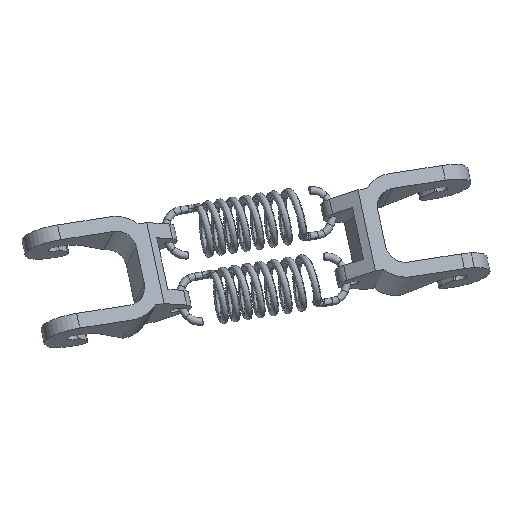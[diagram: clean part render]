
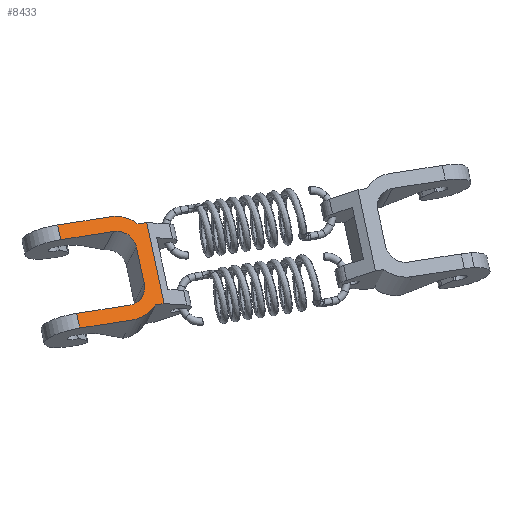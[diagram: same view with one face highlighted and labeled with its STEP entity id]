
A CAD part, isometric view. The second image highlights one B-rep face of the part: STEP entity #8433.
In plain terms, the highlighted planar face has unit normal (-0.31, -0.536, 0.785).
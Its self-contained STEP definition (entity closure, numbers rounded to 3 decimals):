
#48 = VERTEX_POINT ( 'NONE', #7989 ) ;
#81 = VECTOR ( 'NONE', #10544, 1000. ) ;
#419 = DIRECTION ( 'NONE',  ( -0.866, 0.5, 0. ) ) ;
#526 = AXIS2_PLACEMENT_3D ( 'NONE', #3355, #10405, #2181 ) ;
#571 = ORIENTED_EDGE ( 'NONE', *, *, #7356, .F. ) ;
#599 = EDGE_CURVE ( 'NONE', #948, #9986, #632, .T. ) ;
#632 = CIRCLE ( 'NONE', #10250, 9. ) ;
#661 = PLANE ( 'NONE',  #526 ) ;
#862 = CARTESIAN_POINT ( 'NONE',  ( -307.425, -432.475, -285.759 ) ) ;
#948 = VERTEX_POINT ( 'NONE', #3198 ) ;
#979 = DIRECTION ( 'NONE',  ( 0.31, 0.536, -0.785 ) ) ;
#1032 = CARTESIAN_POINT ( 'NONE',  ( -301.184, -457.105, -300.127 ) ) ;
#1088 = EDGE_CURVE ( 'NONE', #11249, #8134, #9716, .T. ) ;
#1090 = VECTOR ( 'NONE', #6039, 1000. ) ;
#1168 = VERTEX_POINT ( 'NONE', #10950 ) ;
#1178 = LINE ( 'NONE', #10349, #11098 ) ;
#1235 = EDGE_CURVE ( 'NONE', #2844, #2283, #2848, .T. ) ;
#1460 = EDGE_CURVE ( 'NONE', #8057, #10161, #2902, .T. ) ;
#1768 = ORIENTED_EDGE ( 'NONE', *, *, #9059, .F. ) ;
#1771 = CIRCLE ( 'NONE', #8372, 5. ) ;
#1877 = ORIENTED_EDGE ( 'NONE', *, *, #6440, .F. ) ;
#2041 = EDGE_CURVE ( 'NONE', #6491, #8057, #9082, .T. ) ;
#2079 = VECTOR ( 'NONE', #3746, 1000. ) ;
#2093 = CARTESIAN_POINT ( 'NONE',  ( -293.73, -436.756, -283.281 ) ) ;
#2181 = DIRECTION ( 'NONE',  ( 0., 0.826, 0.564 ) ) ;
#2247 = EDGE_LOOP ( 'NONE', ( #1877, #9838, #5447, #9297, #5891, #6661, #5423, #3001, #9019, #1768, #6115, #7778, #9219, #4368, #3183, #571 ) ) ;
#2283 = VERTEX_POINT ( 'NONE', #4863 ) ;
#2446 = CARTESIAN_POINT ( 'NONE',  ( -289.098, -442.149, -285.139 ) ) ;
#2524 = EDGE_CURVE ( 'NONE', #2749, #7044, #8840, .T. ) ;
#2546 = EDGE_CURVE ( 'NONE', #7044, #6840, #6458, .T. ) ;
#2583 = CARTESIAN_POINT ( 'NONE',  ( -295.749, -458.252, -298.767 ) ) ;
#2749 = VERTEX_POINT ( 'NONE', #8735 ) ;
#2844 = VERTEX_POINT ( 'NONE', #2583 ) ;
#2848 = LINE ( 'NONE', #9064, #4588 ) ;
#2902 = CIRCLE ( 'NONE', #8756, 5. ) ;
#2977 = DIRECTION ( 'NONE',  ( 0., -0.826, -0.564 ) ) ;
#3001 = ORIENTED_EDGE ( 'NONE', *, *, #1460, .F. ) ;
#3183 = ORIENTED_EDGE ( 'NONE', *, *, #1235, .T. ) ;
#3198 = CARTESIAN_POINT ( 'NONE',  ( -297.734, -457.107, -298.767 ) ) ;
#3355 = CARTESIAN_POINT ( 'NONE',  ( -301.188, -449.673, -295.05 ) ) ;
#3692 = CARTESIAN_POINT ( 'NONE',  ( -315.275, -446.073, -298.147 ) ) ;
#3746 = DIRECTION ( 'NONE',  ( 0.393, 0.68, 0.619 ) ) ;
#3755 = DIRECTION ( 'NONE',  ( 0., -0.826, -0.564 ) ) ;
#3858 = VECTOR ( 'NONE', #7781, 1000. ) ;
#3892 = DIRECTION ( 'NONE',  ( 0., -0.826, -0.564 ) ) ;
#3947 = CARTESIAN_POINT ( 'NONE',  ( -301.188, -449.673, -295.05 ) ) ;
#4002 = LINE ( 'NONE', #6723, #6737 ) ;
#4047 = LINE ( 'NONE', #11508, #3858 ) ;
#4103 = EDGE_CURVE ( 'NONE', #10161, #11249, #1771, .T. ) ;
#4143 = CARTESIAN_POINT ( 'NONE',  ( -301.186, -453.802, -297.871 ) ) ;
#4368 = ORIENTED_EDGE ( 'NONE', *, *, #5058, .F. ) ;
#4588 = VECTOR ( 'NONE', #10065, 1000. ) ;
#4661 = AXIS2_PLACEMENT_3D ( 'NONE', #4723, #10890, #6331 ) ;
#4723 = CARTESIAN_POINT ( 'NONE',  ( -297.263, -442.875, -288.856 ) ) ;
#4860 = CARTESIAN_POINT ( 'NONE',  ( -301.188, -449.673, -295.05 ) ) ;
#4863 = CARTESIAN_POINT ( 'NONE',  ( -287.114, -443.295, -285.139 ) ) ;
#4893 = CARTESIAN_POINT ( 'NONE',  ( -304.721, -455.792, -300.625 ) ) ;
#5058 = EDGE_CURVE ( 'NONE', #2844, #948, #4047, .T. ) ;
#5122 = FACE_OUTER_BOUND ( 'NONE', #2247, .T. ) ;
#5133 = CARTESIAN_POINT ( 'NONE',  ( -296.858, -452.173, -295.05 ) ) ;
#5281 = VECTOR ( 'NONE', #5971, 1000. ) ;
#5401 = EDGE_CURVE ( 'NONE', #9986, #5801, #10111, .T. ) ;
#5423 = ORIENTED_EDGE ( 'NONE', *, *, #4103, .F. ) ;
#5447 = ORIENTED_EDGE ( 'NONE', *, *, #2546, .F. ) ;
#5801 = VERTEX_POINT ( 'NONE', #9905 ) ;
#5829 = DIRECTION ( 'NONE',  ( 0.866, -0.5, 0. ) ) ;
#5891 = ORIENTED_EDGE ( 'NONE', *, *, #8820, .F. ) ;
#5971 = DIRECTION ( 'NONE',  ( -0.866, 0.5, 0. ) ) ;
#6039 = DIRECTION ( 'NONE',  ( 0.866, -0.5, 0. ) ) ;
#6115 = ORIENTED_EDGE ( 'NONE', *, *, #8594, .F. ) ;
#6331 = DIRECTION ( 'NONE',  ( 0., -0.826, -0.564 ) ) ;
#6440 = EDGE_CURVE ( 'NONE', #7630, #48, #11459, .T. ) ;
#6458 = LINE ( 'NONE', #862, #2079 ) ;
#6491 = VERTEX_POINT ( 'NONE', #10064 ) ;
#6661 = ORIENTED_EDGE ( 'NONE', *, *, #1088, .F. ) ;
#6723 = CARTESIAN_POINT ( 'NONE',  ( -305.855, -429.756, -283.281 ) ) ;
#6737 = VECTOR ( 'NONE', #5829, 1000. ) ;
#6753 = LINE ( 'NONE', #2446, #1090 ) ;
#6840 = VERTEX_POINT ( 'NONE', #11399 ) ;
#6870 = CARTESIAN_POINT ( 'NONE',  ( -297.263, -442.875, -288.856 ) ) ;
#6915 = CARTESIAN_POINT ( 'NONE',  ( -296.858, -452.173, -295.05 ) ) ;
#7044 = VERTEX_POINT ( 'NONE', #10318 ) ;
#7290 = DIRECTION ( 'NONE',  ( 0., -0.826, -0.564 ) ) ;
#7294 = DIRECTION ( 'NONE',  ( 0.866, -0.5, 0. ) ) ;
#7356 = EDGE_CURVE ( 'NONE', #48, #2283, #6753, .T. ) ;
#7453 = AXIS2_PLACEMENT_3D ( 'NONE', #11083, #10256, #2977 ) ;
#7630 = VERTEX_POINT ( 'NONE', #2093 ) ;
#7778 = ORIENTED_EDGE ( 'NONE', *, *, #5401, .F. ) ;
#7781 = DIRECTION ( 'NONE',  ( -0.866, 0.5, 0. ) ) ;
#7886 = CIRCLE ( 'NONE', #8076, 5. ) ;
#7989 = CARTESIAN_POINT ( 'NONE',  ( -289.098, -442.149, -285.139 ) ) ;
#8046 = CARTESIAN_POINT ( 'NONE',  ( -292.933, -445.375, -288.856 ) ) ;
#8057 = VERTEX_POINT ( 'NONE', #10886 ) ;
#8076 = AXIS2_PLACEMENT_3D ( 'NONE', #6870, #10258, #9369 ) ;
#8134 = VERTEX_POINT ( 'NONE', #8046 ) ;
#8259 = VECTOR ( 'NONE', #419, 1000. ) ;
#8357 = CARTESIAN_POINT ( 'NONE',  ( -301.188, -449.673, -295.05 ) ) ;
#8372 = AXIS2_PLACEMENT_3D ( 'NONE', #4860, #9364, #3755 ) ;
#8433 = ADVANCED_FACE ( 'NONE', ( #5122 ), #661, .F. ) ;
#8452 = DIRECTION ( 'NONE',  ( -0.31, -0.536, 0.785 ) ) ;
#8570 = VECTOR ( 'NONE', #7294, 1000. ) ;
#8594 = EDGE_CURVE ( 'NONE', #5801, #1168, #11395, .T. ) ;
#8735 = CARTESIAN_POINT ( 'NONE',  ( -295.3, -439.475, -285.759 ) ) ;
#8756 = AXIS2_PLACEMENT_3D ( 'NONE', #3947, #8452, #3892 ) ;
#8820 = EDGE_CURVE ( 'NONE', #8134, #2749, #7886, .T. ) ;
#8840 = LINE ( 'NONE', #9672, #5281 ) ;
#9019 = ORIENTED_EDGE ( 'NONE', *, *, #2041, .F. ) ;
#9059 = EDGE_CURVE ( 'NONE', #1168, #6491, #1178, .T. ) ;
#9064 = CARTESIAN_POINT ( 'NONE',  ( -295.749, -458.252, -298.767 ) ) ;
#9082 = LINE ( 'NONE', #3692, #8570 ) ;
#9219 = ORIENTED_EDGE ( 'NONE', *, *, #599, .F. ) ;
#9246 = EDGE_CURVE ( 'NONE', #6840, #7630, #4002, .T. ) ;
#9297 = ORIENTED_EDGE ( 'NONE', *, *, #2524, .F. ) ;
#9364 = DIRECTION ( 'NONE',  ( -0.31, -0.536, 0.785 ) ) ;
#9369 = DIRECTION ( 'NONE',  ( 0., -0.826, -0.564 ) ) ;
#9672 = CARTESIAN_POINT ( 'NONE',  ( -295.3, -439.475, -285.759 ) ) ;
#9716 = LINE ( 'NONE', #6915, #81 ) ;
#9838 = ORIENTED_EDGE ( 'NONE', *, *, #9246, .F. ) ;
#9905 = CARTESIAN_POINT ( 'NONE',  ( -304.721, -455.792, -300.625 ) ) ;
#9986 = VERTEX_POINT ( 'NONE', #1032 ) ;
#10064 = CARTESIAN_POINT ( 'NONE',  ( -315.275, -446.073, -298.147 ) ) ;
#10065 = DIRECTION ( 'NONE',  ( 0.393, 0.68, 0.619 ) ) ;
#10111 = CIRCLE ( 'NONE', #7453, 9. ) ;
#10161 = VERTEX_POINT ( 'NONE', #4143 ) ;
#10250 = AXIS2_PLACEMENT_3D ( 'NONE', #8357, #979, #7290 ) ;
#10256 = DIRECTION ( 'NONE',  ( 0.31, 0.536, -0.785 ) ) ;
#10258 = DIRECTION ( 'NONE',  ( -0.31, -0.536, 0.785 ) ) ;
#10290 = DIRECTION ( 'NONE',  ( 0.393, 0.68, 0.619 ) ) ;
#10318 = CARTESIAN_POINT ( 'NONE',  ( -307.425, -432.475, -285.759 ) ) ;
#10349 = CARTESIAN_POINT ( 'NONE',  ( -316.845, -448.792, -300.625 ) ) ;
#10405 = DIRECTION ( 'NONE',  ( 0.31, 0.536, -0.785 ) ) ;
#10544 = DIRECTION ( 'NONE',  ( 0.393, 0.68, 0.619 ) ) ;
#10886 = CARTESIAN_POINT ( 'NONE',  ( -303.151, -453.073, -298.147 ) ) ;
#10890 = DIRECTION ( 'NONE',  ( 0.31, 0.536, -0.785 ) ) ;
#10950 = CARTESIAN_POINT ( 'NONE',  ( -316.845, -448.792, -300.625 ) ) ;
#11083 = CARTESIAN_POINT ( 'NONE',  ( -301.188, -449.673, -295.05 ) ) ;
#11098 = VECTOR ( 'NONE', #10290, 1000. ) ;
#11249 = VERTEX_POINT ( 'NONE', #5133 ) ;
#11395 = LINE ( 'NONE', #4893, #8259 ) ;
#11399 = CARTESIAN_POINT ( 'NONE',  ( -305.855, -429.756, -283.281 ) ) ;
#11459 = CIRCLE ( 'NONE', #4661, 9. ) ;
#11508 = CARTESIAN_POINT ( 'NONE',  ( -295.749, -458.252, -298.767 ) ) ;
